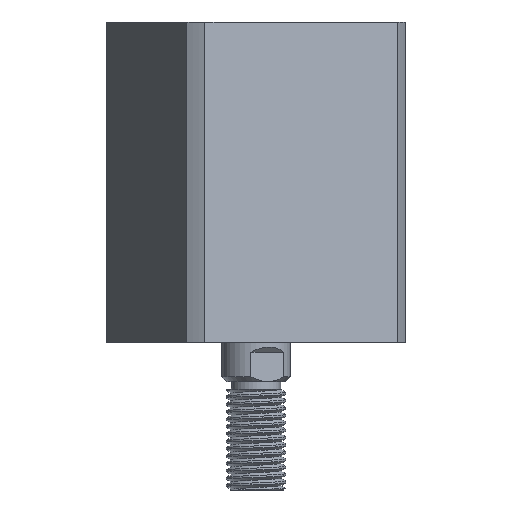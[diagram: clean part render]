
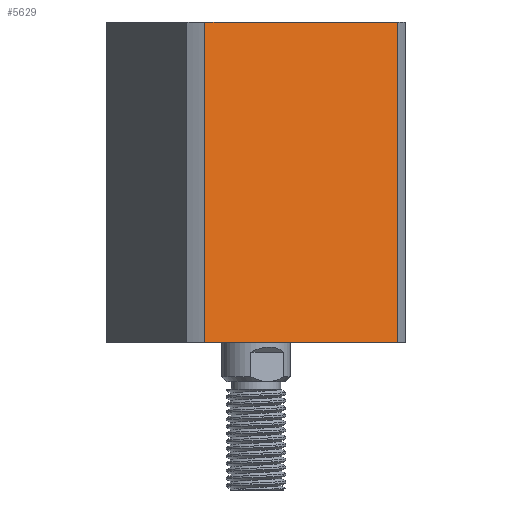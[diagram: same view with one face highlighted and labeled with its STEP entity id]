
A CAD part, left-side view. The second image highlights one B-rep face of the part: STEP entity #5629.
In plain terms, the highlighted planar face has unit normal (-0.924, -0.383, 0) as drawn and (1, 0, 0) by its records, which use the part's own axes.
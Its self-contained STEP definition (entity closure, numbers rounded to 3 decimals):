
#428 = VERTEX_POINT ( 'NONE', #5864 ) ;
#455 = DIRECTION ( 'NONE',  ( 0., -1., 0. ) ) ;
#1377 = AXIS2_PLACEMENT_3D ( 'NONE', #7112, #5442, #455 ) ;
#1488 = VECTOR ( 'NONE', #7206, 1000. ) ;
#2291 = LINE ( 'NONE', #3823, #1488 ) ;
#2440 = CARTESIAN_POINT ( 'NONE',  ( 24., 24., 65. ) ) ;
#2569 = VERTEX_POINT ( 'NONE', #10622 ) ;
#2925 = PLANE ( 'NONE',  #1377 ) ;
#3299 = EDGE_CURVE ( 'NONE', #2569, #428, #7286, .T. ) ;
#3823 = CARTESIAN_POINT ( 'NONE',  ( 24., 24., 0. ) ) ;
#4287 = LINE ( 'NONE', #6806, #5989 ) ;
#4559 = ORIENTED_EDGE ( 'NONE', *, *, #3299, .F. ) ;
#4641 = DIRECTION ( 'NONE',  ( 0., 0., 1. ) ) ;
#4770 = EDGE_CURVE ( 'NONE', #2569, #7338, #2291, .T. ) ;
#4795 = VECTOR ( 'NONE', #4641, 1000. ) ;
#4820 = CARTESIAN_POINT ( 'NONE',  ( 24., -21.166, -235. ) ) ;
#5339 = ORIENTED_EDGE ( 'NONE', *, *, #6817, .F. ) ;
#5442 = DIRECTION ( 'NONE',  ( -1., 0., 0. ) ) ;
#5629 = ADVANCED_FACE ( 'NONE', ( #8111 ), #2925, .F. ) ;
#5864 = CARTESIAN_POINT ( 'NONE',  ( 24., -21.166, 65. ) ) ;
#5989 = VECTOR ( 'NONE', #7646, 1000. ) ;
#6086 = CARTESIAN_POINT ( 'NONE',  ( 24., 21.166, 65. ) ) ;
#6662 = EDGE_CURVE ( 'NONE', #428, #9091, #8738, .T. ) ;
#6806 = CARTESIAN_POINT ( 'NONE',  ( 24., 21.166, -235. ) ) ;
#6817 = EDGE_CURVE ( 'NONE', #9091, #7338, #4287, .T. ) ;
#7065 = ORIENTED_EDGE ( 'NONE', *, *, #4770, .T. ) ;
#7112 = CARTESIAN_POINT ( 'NONE',  ( 24., 24., 65. ) ) ;
#7206 = DIRECTION ( 'NONE',  ( 0., 1., 0. ) ) ;
#7286 = LINE ( 'NONE', #4820, #4795 ) ;
#7338 = VERTEX_POINT ( 'NONE', #10669 ) ;
#7646 = DIRECTION ( 'NONE',  ( 0., 0., -1. ) ) ;
#7846 = ORIENTED_EDGE ( 'NONE', *, *, #6662, .F. ) ;
#8111 = FACE_OUTER_BOUND ( 'NONE', #9601, .T. ) ;
#8267 = DIRECTION ( 'NONE',  ( 0., 1., 0. ) ) ;
#8738 = LINE ( 'NONE', #2440, #10673 ) ;
#9091 = VERTEX_POINT ( 'NONE', #6086 ) ;
#9601 = EDGE_LOOP ( 'NONE', ( #4559, #7065, #5339, #7846 ) ) ;
#10622 = CARTESIAN_POINT ( 'NONE',  ( 24., -21.166, 0. ) ) ;
#10669 = CARTESIAN_POINT ( 'NONE',  ( 24., 21.166, 0. ) ) ;
#10673 = VECTOR ( 'NONE', #8267, 1000. ) ;
